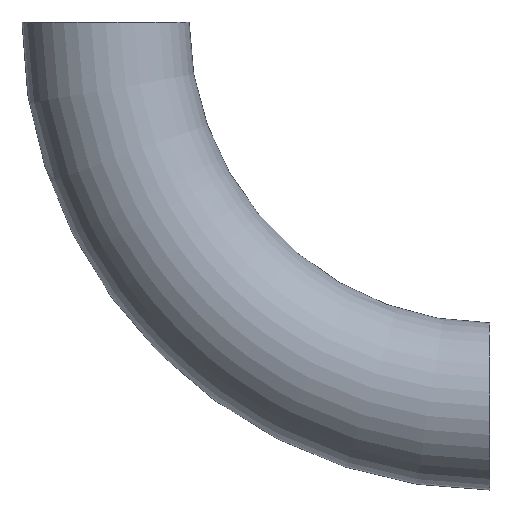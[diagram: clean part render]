
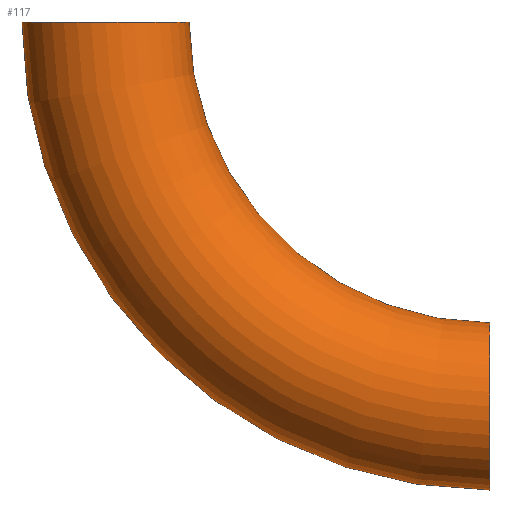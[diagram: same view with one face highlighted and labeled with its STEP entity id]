
A CAD part, front view. The second image highlights one B-rep face of the part: STEP entity #117.
In plain terms, the highlighted toroidal (fillet/blend) face has major radius 175 mm and minor radius 38.05 mm.
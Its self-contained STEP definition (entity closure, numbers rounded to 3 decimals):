
#1 = CIRCLE ( 'NONE', #92, 38.05 ) ;
#2 = EDGE_LOOP ( 'NONE', ( #27, #153, #209, #70 ) ) ;
#12 = CARTESIAN_POINT ( 'NONE',  ( 0., 0., 0. ) ) ;
#27 = ORIENTED_EDGE ( 'NONE', *, *, #230, .F. ) ;
#33 = CIRCLE ( 'NONE', #231, 136.95 ) ;
#42 = CARTESIAN_POINT ( 'NONE',  ( 0., 0., 0. ) ) ;
#56 = AXIS2_PLACEMENT_3D ( 'NONE', #83, #122, #121 ) ;
#58 = AXIS2_PLACEMENT_3D ( 'NONE', #227, #193, #156 ) ;
#60 = DIRECTION ( 'NONE',  ( 0., 0., 1. ) ) ;
#63 = DIRECTION ( 'NONE',  ( 0., 0., 1. ) ) ;
#66 = CIRCLE ( 'NONE', #58, 38.05 ) ;
#70 = ORIENTED_EDGE ( 'NONE', *, *, #104, .F. ) ;
#71 = VERTEX_POINT ( 'NONE', #114 ) ;
#83 = CARTESIAN_POINT ( 'NONE',  ( 0., 0., 0. ) ) ;
#84 = CARTESIAN_POINT ( 'NONE',  ( 0., 0., -175. ) ) ;
#92 = AXIS2_PLACEMENT_3D ( 'NONE', #84, #253, #63 ) ;
#97 = FACE_OUTER_BOUND ( 'NONE', #2, .T. ) ;
#101 = CARTESIAN_POINT ( 'NONE',  ( -136.95, 0., 0. ) ) ;
#104 = EDGE_CURVE ( 'NONE', #71, #240, #66, .T. ) ;
#114 = CARTESIAN_POINT ( 'NONE',  ( -213.05, 0., 0. ) ) ;
#117 = ADVANCED_FACE ( 'NONE', ( #97 ), #137, .T. ) ;
#121 = DIRECTION ( 'NONE',  ( 0., 0., 1. ) ) ;
#122 = DIRECTION ( 'NONE',  ( 0., 1., 0. ) ) ;
#137 = TOROIDAL_SURFACE ( 'NONE', #199, 175., 38.05 ) ;
#153 = ORIENTED_EDGE ( 'NONE', *, *, #164, .T. ) ;
#156 = DIRECTION ( 'NONE',  ( 1., 0., 0. ) ) ;
#161 = DIRECTION ( 'NONE',  ( 0., 1., 0. ) ) ;
#164 = EDGE_CURVE ( 'NONE', #186, #244, #1, .T. ) ;
#165 = DIRECTION ( 'NONE',  ( 0., 0., 1. ) ) ;
#174 = EDGE_CURVE ( 'NONE', #244, #240, #33, .T. ) ;
#183 = CIRCLE ( 'NONE', #56, 213.05 ) ;
#186 = VERTEX_POINT ( 'NONE', #232 ) ;
#193 = DIRECTION ( 'NONE',  ( 0., 0., 1. ) ) ;
#199 = AXIS2_PLACEMENT_3D ( 'NONE', #12, #161, #60 ) ;
#209 = ORIENTED_EDGE ( 'NONE', *, *, #174, .T. ) ;
#218 = DIRECTION ( 'NONE',  ( 0., 1., 0. ) ) ;
#227 = CARTESIAN_POINT ( 'NONE',  ( -175., 0., 0. ) ) ;
#230 = EDGE_CURVE ( 'NONE', #186, #71, #183, .T. ) ;
#231 = AXIS2_PLACEMENT_3D ( 'NONE', #42, #218, #165 ) ;
#232 = CARTESIAN_POINT ( 'NONE',  ( 0., 0., -213.05 ) ) ;
#234 = CARTESIAN_POINT ( 'NONE',  ( 0., 0., -136.95 ) ) ;
#240 = VERTEX_POINT ( 'NONE', #101 ) ;
#244 = VERTEX_POINT ( 'NONE', #234 ) ;
#253 = DIRECTION ( 'NONE',  ( -1., 0., 0. ) ) ;
